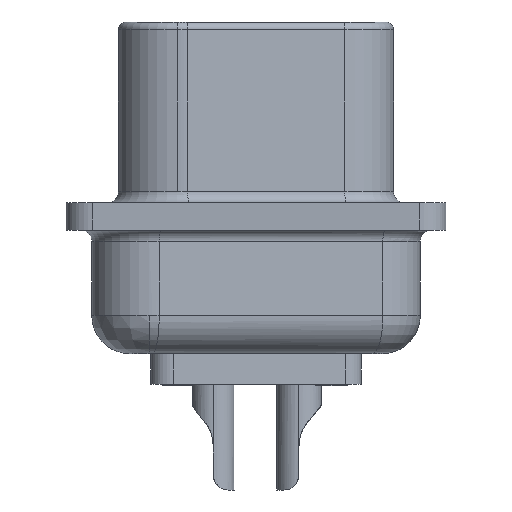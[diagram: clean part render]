
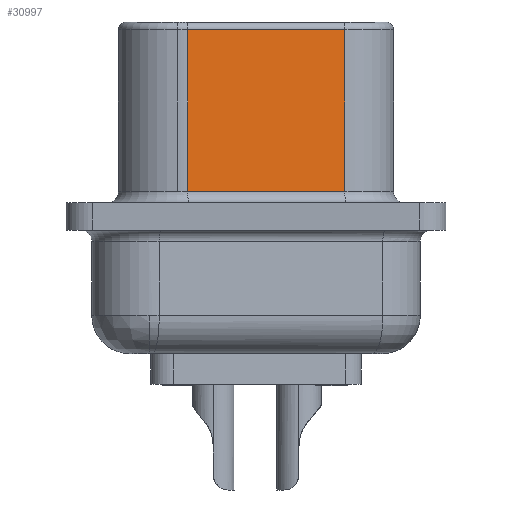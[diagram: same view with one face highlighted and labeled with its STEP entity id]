
A CAD part, left-side view. The second image highlights one B-rep face of the part: STEP entity #30997.
In plain terms, the highlighted planar face has unit normal (-0.985, -0.174, 0).
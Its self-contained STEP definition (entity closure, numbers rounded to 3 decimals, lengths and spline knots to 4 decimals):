
#4687 = VERTEX_POINT('',#4688);
#4688 = CARTESIAN_POINT('',(6.5748,8.5656,5.746));
#4703 = CYLINDRICAL_SURFACE('',#4704,1.9558);
#4704 = AXIS2_PLACEMENT_3D('',#4705,#4706,#4707);
#4705 = CARTESIAN_POINT('',(8.5009,8.9052,6.));
#4706 = DIRECTION('',(-0.,-0.,-1.));
#4707 = DIRECTION('',(-1.,0.,0.));
#4730 = CYLINDRICAL_SURFACE('',#4731,0.254);
#4731 = AXIS2_PLACEMENT_3D('',#4732,#4733,#4734);
#4732 = CARTESIAN_POINT('',(7.7437,3.3993,5.746));
#4733 = DIRECTION('',(0.174,-0.985,0.));
#4734 = DIRECTION('',(0.985,0.174,0.));
#4891 = VERTEX_POINT('',#4892);
#4892 = CARTESIAN_POINT('',(6.5748,8.5656,0.381));
#4919 = EDGE_CURVE('',#4687,#4891,#4920,.T.);
#4920 = SURFACE_CURVE('',#4921,(#4925,#4932),.PCURVE_S1.);
#4921 = LINE('',#4922,#4923);
#4922 = CARTESIAN_POINT('',(6.5748,8.5656,6.));
#4923 = VECTOR('',#4924,1.);
#4924 = DIRECTION('',(-0.,-0.,-1.));
#4925 = PCURVE('',#4703,#4926);
#4926 = DEFINITIONAL_REPRESENTATION('',(#4927),#4931);
#4927 = LINE('',#4928,#4929);
#4928 = CARTESIAN_POINT('',(6.109,0.));
#4929 = VECTOR('',#4930,1.);
#4930 = DIRECTION('',(0.,1.));
#4931 = ( GEOMETRIC_REPRESENTATION_CONTEXT(2) 
PARAMETRIC_REPRESENTATION_CONTEXT() REPRESENTATION_CONTEXT('2D SPACE',''
  ) );
#4932 = PCURVE('',#4933,#4938);
#4933 = PLANE('',#4934);
#4934 = AXIS2_PLACEMENT_3D('',#4935,#4936,#4937);
#4935 = CARTESIAN_POINT('',(7.4935,3.3552,6.));
#4936 = DIRECTION('',(0.985,0.174,-0.));
#4937 = DIRECTION('',(-0.174,0.985,0.));
#4938 = DEFINITIONAL_REPRESENTATION('',(#4939),#4943);
#4939 = LINE('',#4940,#4941);
#4940 = CARTESIAN_POINT('',(5.291,0.));
#4941 = VECTOR('',#4942,1.);
#4942 = DIRECTION('',(0.,-1.));
#4943 = ( GEOMETRIC_REPRESENTATION_CONTEXT(2) 
PARAMETRIC_REPRESENTATION_CONTEXT() REPRESENTATION_CONTEXT('2D SPACE',''
  ) );
#28357 = CYLINDRICAL_SURFACE('',#28358,0.381);
#28358 = AXIS2_PLACEMENT_3D('',#28359,#28360,#28361);
#28359 = CARTESIAN_POINT('',(7.1183,3.289,0.381));
#28360 = DIRECTION('',(0.174,-0.985,0.));
#28361 = DIRECTION('',(0.985,0.174,0.));
#29332 = EDGE_CURVE('',#29333,#29335,#29337,.T.);
#29333 = VERTEX_POINT('',#29334);
#29334 = CARTESIAN_POINT('',(7.4935,3.3552,5.746));
#29335 = VERTEX_POINT('',#29336);
#29336 = CARTESIAN_POINT('',(7.4935,3.3552,0.381));
#29337 = SURFACE_CURVE('',#29338,(#29342,#29354),.PCURVE_S1.);
#29338 = LINE('',#29339,#29340);
#29339 = CARTESIAN_POINT('',(7.4935,3.3552,6.));
#29340 = VECTOR('',#29341,1.);
#29341 = DIRECTION('',(-0.,-0.,-1.));
#29342 = PCURVE('',#29343,#29348);
#29343 = CYLINDRICAL_SURFACE('',#29344,1.9558);
#29344 = AXIS2_PLACEMENT_3D('',#29345,#29346,#29347);
#29345 = CARTESIAN_POINT('',(9.4196,3.6948,6.));
#29346 = DIRECTION('',(-0.,-0.,-1.));
#29347 = DIRECTION('',(-1.,0.,0.));
#29348 = DEFINITIONAL_REPRESENTATION('',(#29349),#29353);
#29349 = LINE('',#29350,#29351);
#29350 = CARTESIAN_POINT('',(6.109,0.));
#29351 = VECTOR('',#29352,1.);
#29352 = DIRECTION('',(0.,1.));
#29353 = ( GEOMETRIC_REPRESENTATION_CONTEXT(2) 
PARAMETRIC_REPRESENTATION_CONTEXT() REPRESENTATION_CONTEXT('2D SPACE',''
  ) );
#29354 = PCURVE('',#4933,#29355);
#29355 = DEFINITIONAL_REPRESENTATION('',(#29356),#29360);
#29356 = LINE('',#29357,#29358);
#29357 = CARTESIAN_POINT('',(0.,0.));
#29358 = VECTOR('',#29359,1.);
#29359 = DIRECTION('',(0.,-1.));
#29360 = ( GEOMETRIC_REPRESENTATION_CONTEXT(2) 
PARAMETRIC_REPRESENTATION_CONTEXT() REPRESENTATION_CONTEXT('2D SPACE',''
  ) );
#30997 = ADVANCED_FACE('',(#30998),#4933,.F.);
#30998 = FACE_BOUND('',#30999,.T.);
#30999 = EDGE_LOOP('',(#31000,#31001,#31022,#31023));
#31000 = ORIENTED_EDGE('',*,*,#4919,.T.);
#31001 = ORIENTED_EDGE('',*,*,#31002,.T.);
#31002 = EDGE_CURVE('',#4891,#29335,#31003,.T.);
#31003 = SURFACE_CURVE('',#31004,(#31008,#31015),.PCURVE_S1.);
#31004 = LINE('',#31005,#31006);
#31005 = CARTESIAN_POINT('',(7.4935,3.3552,0.381));
#31006 = VECTOR('',#31007,1.);
#31007 = DIRECTION('',(0.174,-0.985,0.));
#31008 = PCURVE('',#4933,#31009);
#31009 = DEFINITIONAL_REPRESENTATION('',(#31010),#31014);
#31010 = LINE('',#31011,#31012);
#31011 = CARTESIAN_POINT('',(0.,-5.619));
#31012 = VECTOR('',#31013,1.);
#31013 = DIRECTION('',(-1.,0.));
#31014 = ( GEOMETRIC_REPRESENTATION_CONTEXT(2) 
PARAMETRIC_REPRESENTATION_CONTEXT() REPRESENTATION_CONTEXT('2D SPACE',''
  ) );
#31015 = PCURVE('',#28357,#31016);
#31016 = DEFINITIONAL_REPRESENTATION('',(#31017),#31021);
#31017 = LINE('',#31018,#31019);
#31018 = CARTESIAN_POINT('',(6.283,0.));
#31019 = VECTOR('',#31020,1.);
#31020 = DIRECTION('',(0.,1.));
#31021 = ( GEOMETRIC_REPRESENTATION_CONTEXT(2) 
PARAMETRIC_REPRESENTATION_CONTEXT() REPRESENTATION_CONTEXT('2D SPACE',''
  ) );
#31022 = ORIENTED_EDGE('',*,*,#29332,.F.);
#31023 = ORIENTED_EDGE('',*,*,#31024,.T.);
#31024 = EDGE_CURVE('',#29333,#4687,#31025,.T.);
#31025 = SURFACE_CURVE('',#31026,(#31030,#31037),.PCURVE_S1.);
#31026 = LINE('',#31027,#31028);
#31027 = CARTESIAN_POINT('',(7.4935,3.3552,5.746));
#31028 = VECTOR('',#31029,1.);
#31029 = DIRECTION('',(-0.174,0.985,-0.));
#31030 = PCURVE('',#4933,#31031);
#31031 = DEFINITIONAL_REPRESENTATION('',(#31032),#31036);
#31032 = LINE('',#31033,#31034);
#31033 = CARTESIAN_POINT('',(0.,-0.254));
#31034 = VECTOR('',#31035,1.);
#31035 = DIRECTION('',(1.,0.));
#31036 = ( GEOMETRIC_REPRESENTATION_CONTEXT(2) 
PARAMETRIC_REPRESENTATION_CONTEXT() REPRESENTATION_CONTEXT('2D SPACE',''
  ) );
#31037 = PCURVE('',#4730,#31038);
#31038 = DEFINITIONAL_REPRESENTATION('',(#31039),#31043);
#31039 = LINE('',#31040,#31041);
#31040 = CARTESIAN_POINT('',(3.142,0.));
#31041 = VECTOR('',#31042,1.);
#31042 = DIRECTION('',(0.,-1.));
#31043 = ( GEOMETRIC_REPRESENTATION_CONTEXT(2) 
PARAMETRIC_REPRESENTATION_CONTEXT() REPRESENTATION_CONTEXT('2D SPACE',''
  ) );
